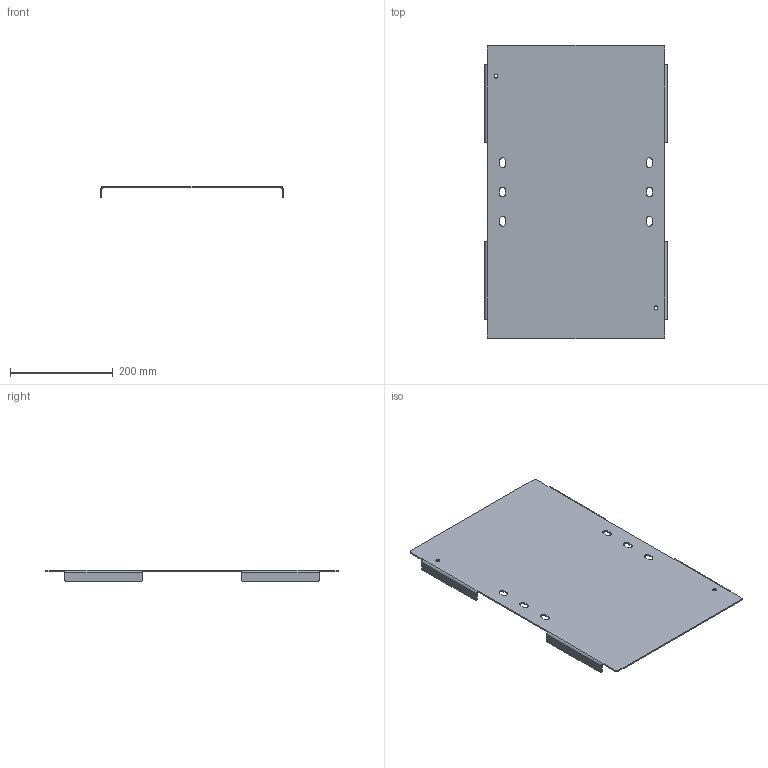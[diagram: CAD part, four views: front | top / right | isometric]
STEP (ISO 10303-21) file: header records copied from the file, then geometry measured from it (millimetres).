
FILE_DESCRIPTION (( 'STEP AP203' ), '1' );
FILE_NAME ('au2418sp.STEP', '2020-07-25T23:12:01', ( '' ), ( '' ), 'SwSTEP 2.0', 'SolidWorks 2016', '' );
FILE_SCHEMA (( 'CONFIG_CONTROL_DESIGN' ));
Length unit declared in the file: inch
Products named in the file (2): 89182970_89182970; au2418sp
Assembly tree (1 placements, depth 2):
  au2418sp
    89182970_89182970
Bounding box: 355.6 x 571.5 x 21.34 mm (x, y, z)
Volume: 517762.7 mm3; surface area: 426074.3 mm2
Topology: 1 solids, 1 shells, 80 faces, 214 edges, 136 vertices
Faces by surface type: plane 44, cylinder 36
Entity records: 2722 total; most frequent: DIRECTION 454, CARTESIAN_POINT 434, ORIENTED_EDGE 428, EDGE_CURVE 214, AXIS2_PLACEMENT_3D 156, VECTOR 142, LINE 142, VERTEX_POINT 136
